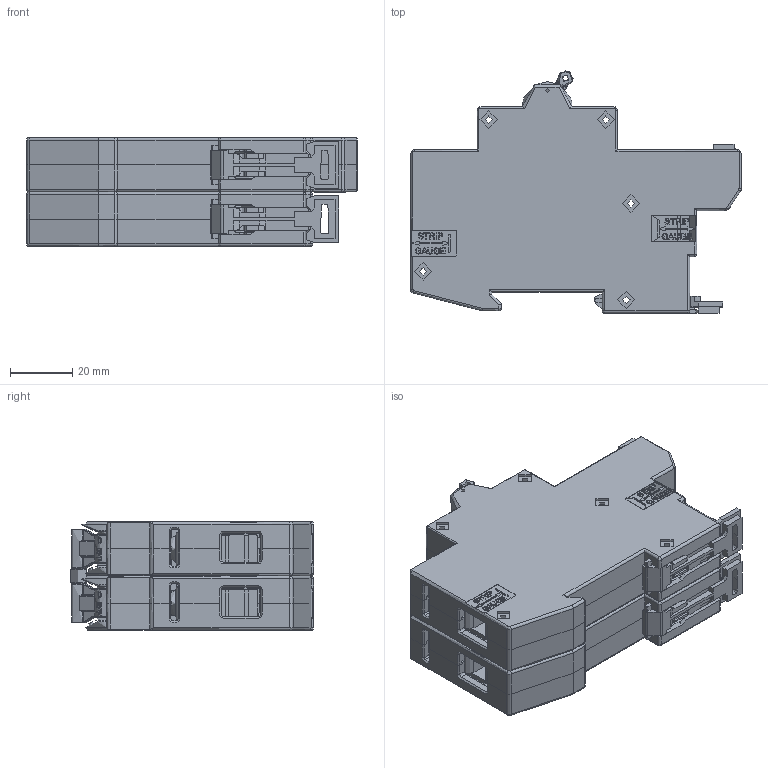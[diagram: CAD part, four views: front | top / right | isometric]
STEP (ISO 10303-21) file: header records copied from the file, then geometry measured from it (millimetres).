
FILE_DESCRIPTION(/* description */ (''),/* implementation_level */ '2;1');
FILE_NAME(/* name */ 'I:\TI\Bibliotheek\Inventor\Imported Components\GR2-250-56-B-S1-5-1-2A-2\GR2-250-56-B-S1-5-1-2A-2 solid.stp',/* time_stamp */ '2016-07-14T13:25:50+02:00',/* author */ ('NOey'),/* organization */ (''),/* preprocessor_version */ 'ST-DEVELOPER v15.2',/* originating_system */ 'Autodesk Inventor 2014',/* authorisation */ '');
FILE_SCHEMA (('AUTOMOTIVE_DESIGN { 1 0 10303 214 3 1 1 }'));
Products named in the file (1): GR2-250-56-B-S1-5-1-2A-2 solid
Bounding box: 106.38 x 78.14 x 34.95 mm (x, y, z)
Volume: 76845.8 mm3; surface area: 94277.8 mm2
Topology: 50 solids, 67 shells, 8479 faces, 23060 edges, 14944 vertices
Faces by surface type: plane 6245, cylinder 1215, bspline 590, torus 230, cone 121, sphere 78
Full cylindrical faces by diameter (mm): 0.584 x22, 0.8 x10, 0.9 x1, 0.966 x1, 0.97 x2, 1 x1, 1.1 x2, 1.2 x1, 1.25 x1, 1.397 x4, 1.575 x3, 1.651 x1, 1.676 x2, 1.9 x6, 1.981 x2, 2.2 x4, 2.235 x2, 2.337 x16, 2.34 x1, 2.362 x4, 2.388 x2, 2.413 x2, 2.769 x2, 3.158 x3, 3.175 x4, 3.2 x2, 3.81 x3, 4.039 x8, 4.216 x28, 4.242 x6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
Entity records: 288704 total; most frequent: CARTESIAN_POINT 78599, ORIENTED_EDGE 45014, DIRECTION 40412, EDGE_CURVE 22554, LINE 18098, VECTOR 18098, VERTEX_POINT 14808, AXIS2_PLACEMENT_3D 11157
